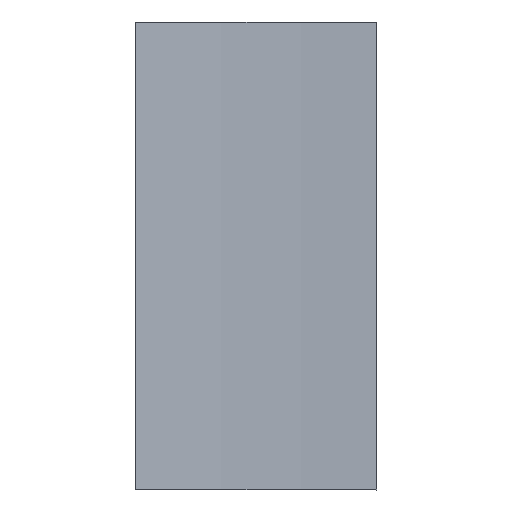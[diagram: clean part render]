
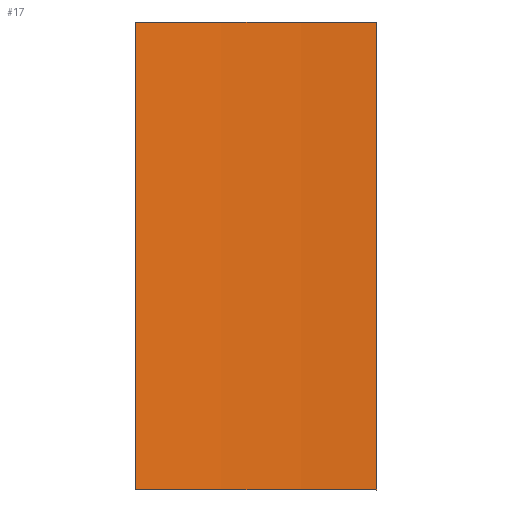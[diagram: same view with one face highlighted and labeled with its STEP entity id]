
A CAD part, top view. The second image highlights one B-rep face of the part: STEP entity #17.
In plain terms, the highlighted cylindrical face has radius 10 mm (diameter 20 mm), a partial arc.
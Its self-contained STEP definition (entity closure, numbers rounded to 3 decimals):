
#17 = ADVANCED_FACE('',(#18),#32,.T.);
#18 = FACE_BOUND('',#19,.T.);
#19 = EDGE_LOOP('',(#20,#42,#59,#74));
#20 = ORIENTED_EDGE('',*,*,#21,.F.);
#21 = EDGE_CURVE('',#22,#24,#26,.T.);
#22 = VERTEX_POINT('',#23);
#23 = CARTESIAN_POINT('',(34.8,37.9,-1.854));
#24 = VERTEX_POINT('',#25);
#25 = CARTESIAN_POINT('',(34.8,41.,-1.854));
#26 = SURFACE_CURVE('',#27,(#31),.PCURVE_S1.);
#27 = LINE('',#28,#29);
#28 = CARTESIAN_POINT('',(34.8,0.,-1.854));
#29 = VECTOR('',#30,1.);
#30 = DIRECTION('',(0.,1.,0.));
#31 = PCURVE('',#32,#37);
#32 = CYLINDRICAL_SURFACE('',#33,10.);
#33 = AXIS2_PLACEMENT_3D('',#34,#35,#36);
#34 = CARTESIAN_POINT('',(29.,0.,-10.));
#35 = DIRECTION('',(0.,1.,0.));
#36 = DIRECTION('',(0.707,-0.,0.707));
#37 = DEFINITIONAL_REPRESENTATION('',(#38),#41);
#38 = B_SPLINE_CURVE_WITH_KNOTS('',1,(#39,#40),.UNSPECIFIED.,.F.,.F.,(2,
    2),(37.59,41.31),.PIECEWISE_BEZIER_KNOTS.);
#39 = CARTESIAN_POINT('',(-0.167,37.59));
#40 = CARTESIAN_POINT('',(-0.167,41.31));
#41 = ( GEOMETRIC_REPRESENTATION_CONTEXT(2) 
PARAMETRIC_REPRESENTATION_CONTEXT() REPRESENTATION_CONTEXT('2D SPACE',''
  ) );
#42 = ORIENTED_EDGE('',*,*,#43,.T.);
#43 = EDGE_CURVE('',#22,#44,#46,.T.);
#44 = VERTEX_POINT('',#45);
#45 = CARTESIAN_POINT('',(36.4,37.9,-3.274));
#46 = SURFACE_CURVE('',#47,(#52),.PCURVE_S1.);
#47 = CIRCLE('',#48,10.);
#48 = AXIS2_PLACEMENT_3D('',#49,#50,#51);
#49 = CARTESIAN_POINT('',(29.,37.9,-10.));
#50 = DIRECTION('',(0.,1.,0.));
#51 = DIRECTION('',(0.707,-0.,0.707));
#52 = PCURVE('',#32,#53);
#53 = DEFINITIONAL_REPRESENTATION('',(#54),#58);
#54 = LINE('',#55,#56);
#55 = CARTESIAN_POINT('',(-6.283,37.9));
#56 = VECTOR('',#57,1.);
#57 = DIRECTION('',(1.,0.));
#58 = ( GEOMETRIC_REPRESENTATION_CONTEXT(2) 
PARAMETRIC_REPRESENTATION_CONTEXT() REPRESENTATION_CONTEXT('2D SPACE',''
  ) );
#59 = ORIENTED_EDGE('',*,*,#60,.T.);
#60 = EDGE_CURVE('',#44,#61,#63,.T.);
#61 = VERTEX_POINT('',#62);
#62 = CARTESIAN_POINT('',(36.4,41.,-3.274));
#63 = SURFACE_CURVE('',#64,(#68),.PCURVE_S1.);
#64 = LINE('',#65,#66);
#65 = CARTESIAN_POINT('',(36.4,0.,-3.274));
#66 = VECTOR('',#67,1.);
#67 = DIRECTION('',(0.,1.,0.));
#68 = PCURVE('',#32,#69);
#69 = DEFINITIONAL_REPRESENTATION('',(#70),#73);
#70 = B_SPLINE_CURVE_WITH_KNOTS('',1,(#71,#72),.UNSPECIFIED.,.F.,.F.,(2,
    2),(37.59,41.31),.PIECEWISE_BEZIER_KNOTS.);
#71 = CARTESIAN_POINT('',(0.048,37.59));
#72 = CARTESIAN_POINT('',(0.048,41.31));
#73 = ( GEOMETRIC_REPRESENTATION_CONTEXT(2) 
PARAMETRIC_REPRESENTATION_CONTEXT() REPRESENTATION_CONTEXT('2D SPACE',''
  ) );
#74 = ORIENTED_EDGE('',*,*,#75,.F.);
#75 = EDGE_CURVE('',#24,#61,#76,.T.);
#76 = SURFACE_CURVE('',#77,(#82),.PCURVE_S1.);
#77 = CIRCLE('',#78,10.);
#78 = AXIS2_PLACEMENT_3D('',#79,#80,#81);
#79 = CARTESIAN_POINT('',(29.,41.,-10.));
#80 = DIRECTION('',(0.,1.,0.));
#81 = DIRECTION('',(0.707,-0.,0.707));
#82 = PCURVE('',#32,#83);
#83 = DEFINITIONAL_REPRESENTATION('',(#84),#88);
#84 = LINE('',#85,#86);
#85 = CARTESIAN_POINT('',(-6.283,41.));
#86 = VECTOR('',#87,1.);
#87 = DIRECTION('',(1.,0.));
#88 = ( GEOMETRIC_REPRESENTATION_CONTEXT(2) 
PARAMETRIC_REPRESENTATION_CONTEXT() REPRESENTATION_CONTEXT('2D SPACE',''
  ) );
